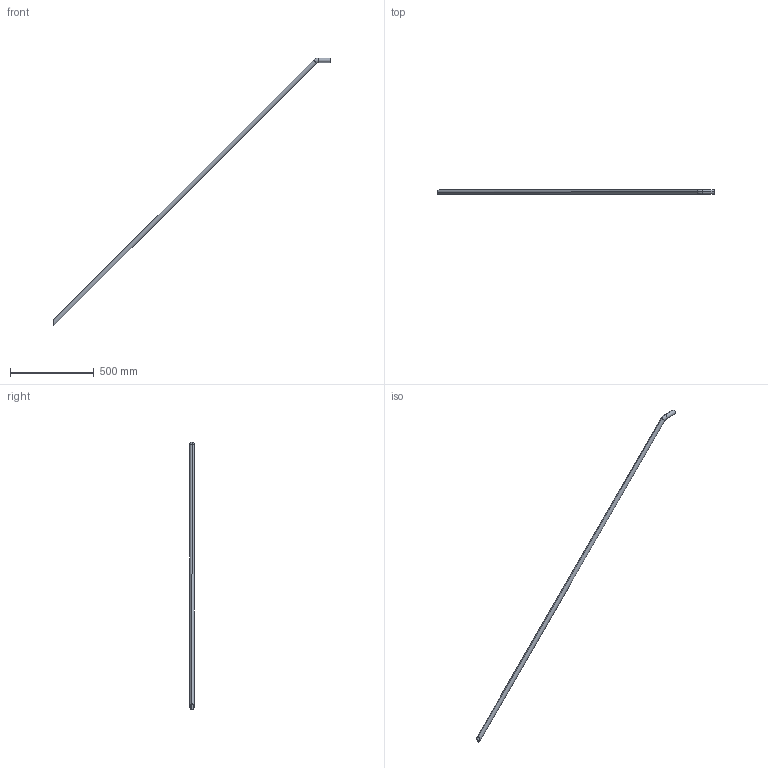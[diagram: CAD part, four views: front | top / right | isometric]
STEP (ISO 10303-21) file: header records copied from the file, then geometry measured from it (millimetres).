
FILE_DESCRIPTION (( 'STEP AP214' ), '1' );
FILE_NAME ('CCJ029-REP.204 - LISSE ESCALIER INTERMEDIAIRE.STEP', '2025-04-17T12:35:09', ( '' ), ( '' ), 'SwSTEP 2.0', 'SolidWorks 2021', '' );
FILE_SCHEMA (( 'AUTOMOTIVE_DESIGN' ));
Length unit declared in the file: millimetre
Products named in the file (1): CCJ029-REP.204 - LISSE ESCALIER INTERMEDIAIRE
Bounding box: 1652.1 x 26.9 x 1601.57 mm (x, y, z)
Volume: 408985.7 mm3; surface area: 356053.6 mm2
Topology: 1 solids, 1 shells, 14 faces, 28 edges, 16 vertices
Faces by surface type: cylinder 8, torus 4, plane 2
Entity records: 402 total; most frequent: CARTESIAN_POINT 71, DIRECTION 70, ORIENTED_EDGE 56, AXIS2_PLACEMENT_3D 31, EDGE_CURVE 28, EDGE_LOOP 16, CIRCLE 16, VERTEX_POINT 16
